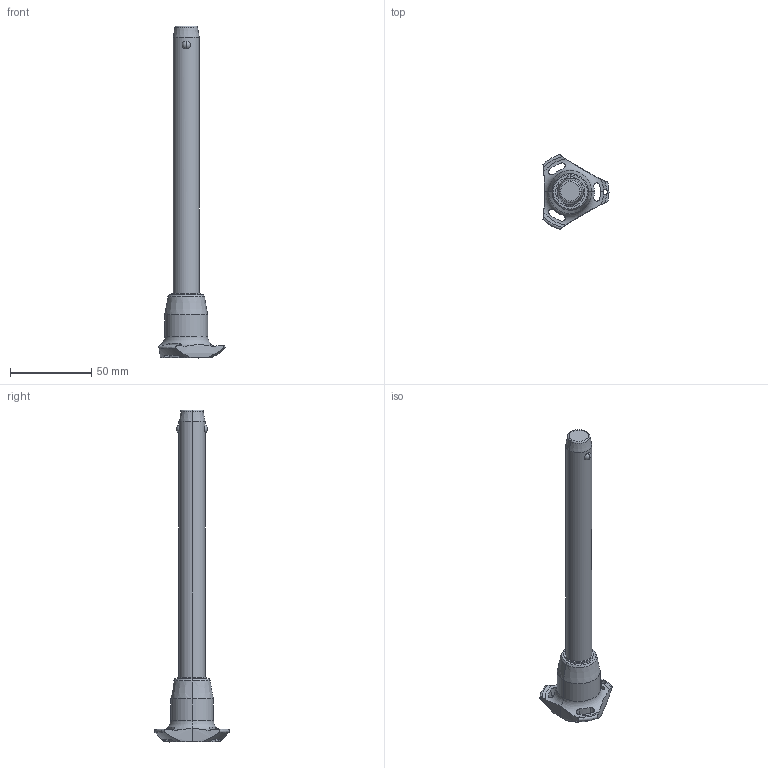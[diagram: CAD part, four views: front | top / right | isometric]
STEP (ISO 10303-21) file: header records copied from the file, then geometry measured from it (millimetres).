
FILE_DESCRIPTION (( 'STEP AP203' ), '1' );
FILE_NAME ('QR1714.M16-150-S.step', '2025-11-12T10:25:39', ( '' ), ( '' ), 'SwSTEP 2.0', 'SolidWorks 2019', '' );
FILE_SCHEMA (( 'CONFIG_CONTROL_DESIGN' ));
Length unit declared in the file: millimetre
Products named in the file (1): QR1714.M16-150-S
Bounding box: 40.5 x 45.88 x 203.7 mm (x, y, z)
Volume: 55256 mm3; surface area: 14198.4 mm2
Topology: 1 solids, 1 shells, 65 faces, 178 edges, 113 vertices
Faces by surface type: cylinder 30, cone 14, torus 11, sphere 6, plane 4
Entity records: 2870 total; most frequent: CARTESIAN_POINT 1181, ORIENTED_EDGE 356, DIRECTION 329, EDGE_CURVE 178, AXIS2_PLACEMENT_3D 147, VERTEX_POINT 113, CIRCLE 81, EDGE_LOOP 71
